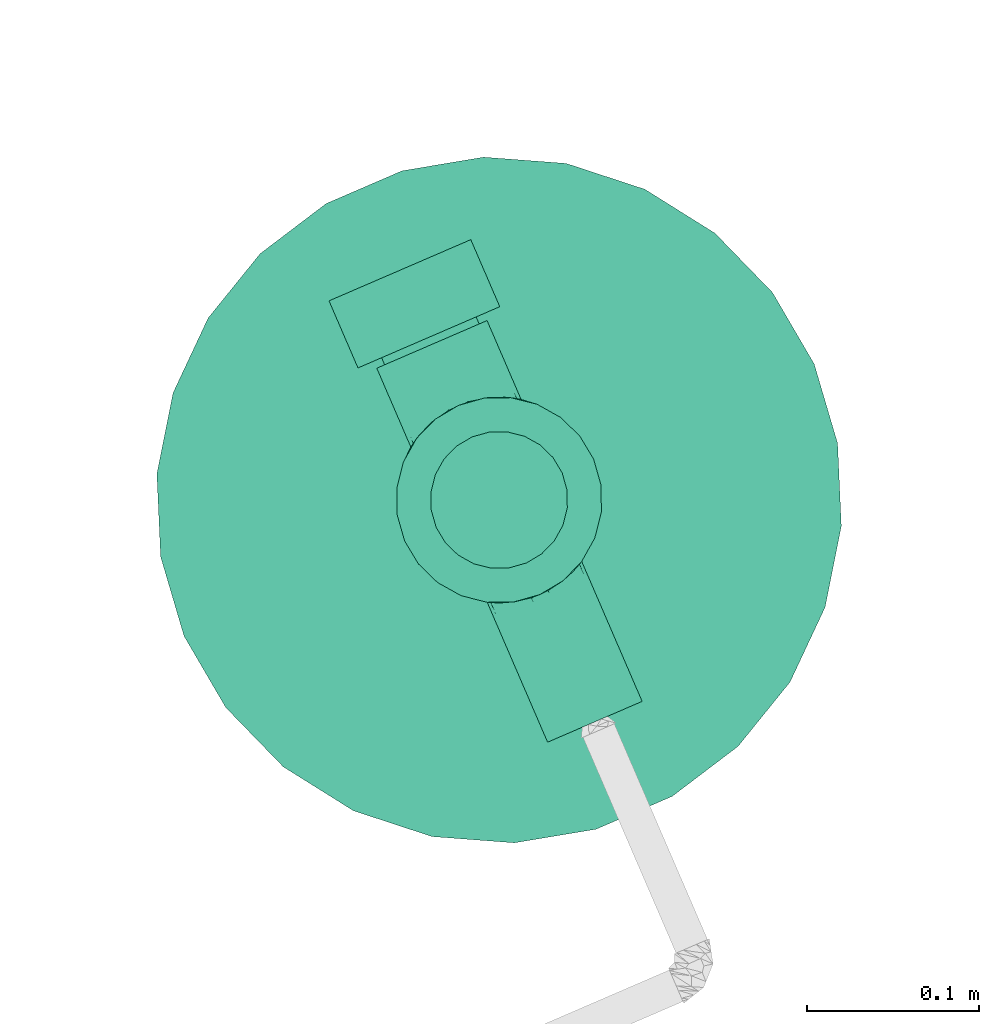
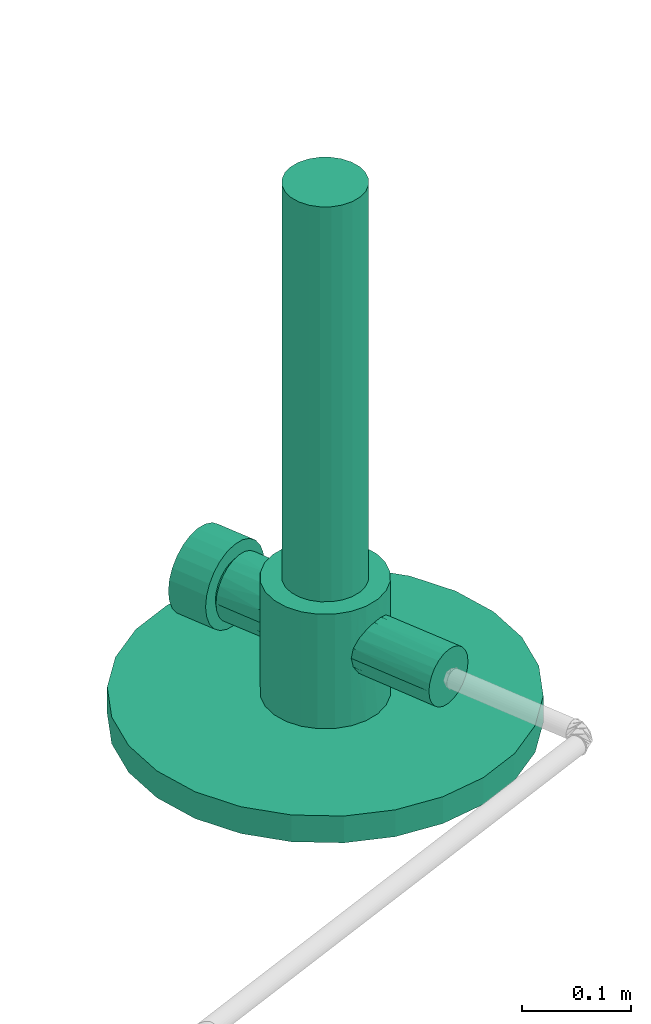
# One storey, part 12 of 26: 1 burner.
"""IFC4 building model written with IfcOpenShell, lengths in metres."""

from ifc_helpers import new_model, entity, si_unit, converted_unit, derived_unit, direction, frame, origin, place, context, subcontext, project, spatial, polygons, source, transform, mapped, material, type_object, type_shapes, element, save


model = new_model("IFC4")

# Units and contexts
model_context = context("Model", 3, precision=1e-05, world=origin(), true_north=direction((6.12323399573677e-17, 1.0)))
body_context = subcontext(model_context, "Body", "Model", "MODEL_VIEW")
ifc_project = project(units=[si_unit("LENGTHUNIT", "METRE"), si_unit("AREAUNIT", "SQUARE_METRE"), si_unit("VOLUMEUNIT", "CUBIC_METRE"), si_unit("PRESSUREUNIT", "PASCAL"), derived_unit("VOLUMETRICFLOWRATEUNIT", [(si_unit("LENGTHUNIT", "METRE", prefix="DECI"), 3), (si_unit("TIMEUNIT", "SECOND"), -1)]), converted_unit("PLANEANGLEUNIT", "DEGREE", entity("IfcPlaneAngleMeasure", 0.0174532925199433), si_unit("PLANEANGLEUNIT", "RADIAN"), dimensions=[0, 0, 0, 0, 0, 0, 0])], contexts=[model_context])

# Site, building, storey
site_placement = place(None, origin())
site = spatial("IfcSite", under=ifc_project, at=site_placement, Name="Default", CompositionType="ELEMENT")
building_placement = place(site_placement, frame((24.575451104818, -55.896759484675, 317.15), z_axis=(0.0, 0.0, 1.0), x_axis=(-0.396377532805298, 0.918087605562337, 0.0)))
building = spatial("IfcBuilding", under=site, at=building_placement, CompositionType="ELEMENT")
storey_placement = place(building_placement, origin())
storey = spatial("IfcBuildingStorey", under=building, at=storey_placement, Name="Nivel 1", CompositionType="ELEMENT", Elevation=0.0)

# Burner
ifc_material = material(Name="<Unnamed>")
burner_type = type_object("IfcBurnerType", Name="Mechero:Mechero", PredefinedType="NOTDEFINED", material=ifc_material)
shared_shape = source(origin(), body_context, "Body", "Tessellation", [
    polygons([(0.03, 0.140777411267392, 0.105540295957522), (0.0289777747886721, 0.140777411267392, 0.113304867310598), (0.0259807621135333, 0.140777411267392, 0.120540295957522), (0.0212132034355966, 0.140777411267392, 0.126753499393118), (0.0150000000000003, 0.140777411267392, 0.131521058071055), (0.00776457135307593, 0.140777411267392, 0.134518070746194), (3.24733641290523e-16, 0.140777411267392, 0.135540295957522), (-0.0077645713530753, 0.140777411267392, 0.134518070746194), (-0.0149999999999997, 0.140777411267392, 0.131521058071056), (-0.0212132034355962, 0.140777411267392, 0.126753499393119), (-0.025980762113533, 0.140777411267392, 0.120540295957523), (-0.0289777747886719, 0.140777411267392, 0.113304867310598), (-0.03, 0.140777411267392, 0.105540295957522), (-0.03, 0.0519615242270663, 0.105540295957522), (-0.0281488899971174, 0.0529871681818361, 0.115915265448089), (-0.0229729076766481, 0.0554278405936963, 0.124833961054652), (-0.0151160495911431, 0.058064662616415, 0.131453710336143), (-0.00529779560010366, 0.05976565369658, 0.135068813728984), (0.0052891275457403, 0.0597664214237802, 0.135070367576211), (0.015112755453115, 0.0580655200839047, 0.131455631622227), (0.0229650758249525, 0.0554310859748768, 0.124843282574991), (0.0281481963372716, 0.0529875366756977, 0.115917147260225), (0.03, 0.0519615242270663, 0.105540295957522), (0.0290740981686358, 0.052474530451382, 0.110728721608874), (0.0102009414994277, 0.0589159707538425, 0.133262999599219), (-0.0102069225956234, 0.0589151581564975, 0.133261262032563), (-4.33402718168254e-06, 0.0597660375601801, 0.135069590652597), (-0.0290744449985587, 0.0524743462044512, 0.110727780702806), (-0.028977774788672, 0.140777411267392, 0.0977757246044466), (-0.0259807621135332, 0.140777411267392, 0.0905402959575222), (-0.0212132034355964, 0.140777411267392, 0.0843270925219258), (-0.015, 0.140777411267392, 0.0795595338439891), (-0.00776457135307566, 0.140777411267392, 0.0765625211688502), (-4.89878376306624e-17, 0.140777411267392, 0.0755402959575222), (0.00776457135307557, 0.140777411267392, 0.0765625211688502), (0.0149999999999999, 0.140777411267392, 0.079559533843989), (0.0212132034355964, 0.140777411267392, 0.0843270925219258), (0.0259807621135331, 0.140777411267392, 0.0905402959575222), (0.028977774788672, 0.140777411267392, 0.0977757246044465), (0.0281481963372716, 0.0529875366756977, 0.0951634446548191), (0.0229650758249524, 0.0554310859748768, 0.0862373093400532), (0.0151127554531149, 0.0580655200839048, 0.079624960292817), (0.00528912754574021, 0.0597664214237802, 0.0760102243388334), (-0.00529779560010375, 0.05976565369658, 0.0760117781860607), (-0.0151160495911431, 0.058064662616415, 0.0796268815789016), (-0.0229729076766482, 0.0554278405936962, 0.0862466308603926), (-0.0281488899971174, 0.0529871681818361, 0.0951653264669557), (-0.0290744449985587, 0.0524743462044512, 0.100352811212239), (-0.0102069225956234, 0.0589151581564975, 0.0778193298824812), (0.0102009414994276, 0.0589159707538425, 0.0778175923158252), (-4.33402718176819e-06, 0.0597660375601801, 0.076011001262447), (0.0290740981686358, 0.052474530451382, 0.100351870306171), (-0.06, 1.938147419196e-16, 0.158062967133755), (-0.0579555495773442, -0.015529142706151, 0.158062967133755), (-0.0519615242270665, -0.0299999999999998, 0.158062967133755), (-0.042426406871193, -0.0424264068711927, 0.158062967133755), (-0.0300000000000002, -0.0519615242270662, 0.158062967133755), (-0.0155291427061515, -0.057955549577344, 0.158062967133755), (-2.79176681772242e-16, -0.06, 0.158062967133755), (0.015529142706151, -0.0579555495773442, 0.158062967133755), (0.0299999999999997, -0.0519615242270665, 0.158062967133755), (0.0424264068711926, -0.0424264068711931, 0.158062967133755), (0.0519615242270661, -0.0300000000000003, 0.158062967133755), (0.057955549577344, -0.0155291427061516, 0.158062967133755), (0.06, -5.06070118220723e-20, 0.158062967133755), (0.0579555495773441, 0.0155291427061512, 0.158062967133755), (0.0519615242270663, 0.03, 0.158062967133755), (0.0424264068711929, 0.0424264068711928, 0.158062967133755), (0.0300000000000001, 0.0519615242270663, 0.158062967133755), (0.0155291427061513, 0.0579555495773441, 0.158062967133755), (8.45989944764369e-17, 0.06, 0.158062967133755), (-0.0155291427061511, 0.0579555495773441, 0.158062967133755), (-0.0299999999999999, 0.0519615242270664, 0.158062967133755), (-0.0424264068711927, 0.042426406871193, 0.158062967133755), (-0.0519615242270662, 0.0300000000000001, 0.158062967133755), (-0.057955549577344, 0.0155291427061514, 0.158062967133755), (0.04, -2.58487131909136e-16, 0.158062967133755), (0.0386370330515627, -0.0103527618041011, 0.158062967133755), (0.0346410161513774, -0.0200000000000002, 0.158062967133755), (0.0282842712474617, -0.0282842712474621, 0.158062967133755), (0.0199999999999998, -0.0346410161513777, 0.158062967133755), (0.0103527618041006, -0.0386370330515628, 0.158062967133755), (-1.86117787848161e-16, -0.04, 0.158062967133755), (-0.010352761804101, -0.0386370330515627, 0.158062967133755), (-0.0200000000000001, -0.0346410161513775, 0.158062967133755), (-0.028284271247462, -0.0282842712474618, 0.158062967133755), (-0.0346410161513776, -0.0199999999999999, 0.158062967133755), (-0.0386370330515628, -0.0103527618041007, 0.158062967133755), (-0.04, -1.47007134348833e-16, 0.158062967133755), (-0.0386370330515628, 0.0103527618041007, 0.158062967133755), (-0.0346410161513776, 0.0199999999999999, 0.158062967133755), (-0.028284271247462, 0.0282842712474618, 0.158062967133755), (-0.0200000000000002, 0.0346410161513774, 0.158062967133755), (-0.010352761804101, 0.0386370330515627, 0.158062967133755), (-2.19957385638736e-16, 0.04, 0.158062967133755), (0.0103527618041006, 0.0386370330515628, 0.158062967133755), (0.0199999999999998, 0.0346410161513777, 0.158062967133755), (0.0282842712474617, 0.0282842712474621, 0.158062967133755), (0.0346410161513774, 0.0200000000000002, 0.158062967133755), (0.0386370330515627, 0.0103527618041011, 0.158062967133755), (-0.06, 1.67169389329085e-16, 0.03), (-0.057955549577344, 0.0155291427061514, 0.03), (-0.0519615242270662, 0.0300000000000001, 0.03), (-0.0424264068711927, 0.042426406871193, 0.03), (-0.0299999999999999, 0.0519615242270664, 0.03), (-0.0155291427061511, 0.0579555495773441, 0.03), (8.45989944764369e-17, 0.06, 0.03), (0.0155291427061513, 0.0579555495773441, 0.03), (0.0300000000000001, 0.0519615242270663, 0.03), (0.0424264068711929, 0.0424264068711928, 0.03), (0.0519615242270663, 0.03, 0.03), (0.0579555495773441, 0.0155291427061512, 0.03), (0.06, -3.34490599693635e-16, 0.03), (0.057955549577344, -0.0155291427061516, 0.03), (0.0519615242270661, -0.0300000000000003, 0.03), (0.0424264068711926, -0.0424264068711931, 0.03), (0.0299999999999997, -0.0519615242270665, 0.03), (0.015529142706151, -0.0579555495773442, 0.03), (-2.79176681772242e-16, -0.06, 0.03), (-0.0155291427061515, -0.057955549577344, 0.03), (-0.0300000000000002, -0.0519615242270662, 0.03), (-0.042426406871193, -0.0424264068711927, 0.03), (-0.0519615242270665, -0.0299999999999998, 0.03), (-0.0579555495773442, -0.015529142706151, 0.03), (-0.0350000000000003, -0.0487339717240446, 0.106389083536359), (-0.0328211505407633, -0.0502272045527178, 0.118545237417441), (-0.0268063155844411, -0.0536788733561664, 0.128892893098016), (-0.0176988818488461, -0.0573301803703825, 0.136584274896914), (-0.00622472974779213, -0.0596762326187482, 0.140831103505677), (0.00621395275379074, -0.0596773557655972, 0.140833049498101), (0.0176944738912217, -0.0573315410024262, 0.136586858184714), (0.0267976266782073, -0.0536832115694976, 0.12890323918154), (0.0328202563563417, -0.0502277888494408, 0.118547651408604), (0.0349999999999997, -0.0487339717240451, 0.106389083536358), (0.0328202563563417, -0.0502277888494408, 0.0942305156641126), (0.0267976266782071, -0.0536832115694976, 0.0838749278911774), (0.0176944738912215, -0.0573315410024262, 0.0761913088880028), (0.00621395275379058, -0.0596773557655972, 0.0719451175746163), (-0.00622472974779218, -0.0596762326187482, 0.0719470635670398), (-0.0176988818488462, -0.0573301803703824, 0.0761938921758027), (-0.0268063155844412, -0.0536788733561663, 0.0838852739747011), (-0.0328211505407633, -0.0502272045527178, 0.0942329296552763), (0.022764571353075, -0.0549585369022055, 0.158062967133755), (0.00776457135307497, -0.0589777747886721, 0.158062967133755), (-0.00776457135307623, -0.058977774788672, 0.158062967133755), (-0.0227645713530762, -0.054958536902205, 0.158062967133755), (-0.00776457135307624, -0.058977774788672, 0.03), (0.00776457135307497, -0.0589777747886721, 0.03), (-0.0119618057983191, -0.0585032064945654, 0.138707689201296), (-5.38849700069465e-06, -0.0596767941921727, 0.140832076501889), (0.0119542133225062, -0.0585044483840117, 0.138709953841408), (0.0191468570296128, -0.0564570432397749, 0.158062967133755), (0.00388228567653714, -0.0594888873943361, 0.158062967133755), (-0.00388228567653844, -0.059488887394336, 0.158062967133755), (-0.019146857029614, -0.0564570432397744, 0.158062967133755), (0.00310428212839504, -0.059677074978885, 0.140832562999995), (-0.0222525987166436, -0.0555045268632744, 0.132738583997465), (-0.011646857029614, -0.058466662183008, 0.158062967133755), (-0.00311505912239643, -0.0596765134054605, 0.140831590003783), (0.0116468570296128, -0.0584666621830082, 0.158062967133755), (0.0222460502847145, -0.0555073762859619, 0.132745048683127), (-0.0227645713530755, 0.0549585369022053, 0.158062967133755), (-0.00776457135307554, 0.0589777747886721, 0.158062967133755), (0.00776457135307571, 0.058977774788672, 0.158062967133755), (0.0227645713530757, 0.0549585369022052, 0.158062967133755), (-0.04, 1.29243565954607e-16, 0.6), (-0.0386370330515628, -0.0103527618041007, 0.6), (-0.0346410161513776, -0.0199999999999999, 0.6), (-0.028284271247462, -0.0282842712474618, 0.6), (-0.0200000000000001, -0.0346410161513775, 0.6), (-0.010352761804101, -0.0386370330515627, 0.6), (-1.86117787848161e-16, -0.04, 0.6), (0.0103527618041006, -0.0386370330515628, 0.6), (0.0199999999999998, -0.0346410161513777, 0.6), (0.0282842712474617, -0.0282842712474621, 0.6), (0.0346410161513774, -0.0200000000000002, 0.6), (0.0386370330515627, -0.0103527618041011, 0.6), (0.04, 0.0, 0.6), (0.0386370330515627, 0.0103527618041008, 0.6), (0.0346410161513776, 0.02, 0.6), (0.0282842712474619, 0.0282842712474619, 0.6), (0.02, 0.0346410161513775, 0.6), (0.0103527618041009, 0.0386370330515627, 0.6), (5.92192961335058e-17, 0.04, 0.6), (-0.0103527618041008, 0.0386370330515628, 0.6), (-0.0199999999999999, 0.0346410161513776, 0.6), (-0.0282842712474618, 0.028284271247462, 0.6), (-0.0346410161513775, 0.0200000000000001, 0.6), (-0.0386370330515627, 0.0103527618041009, 0.6), (0.03, -0.0987791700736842, 0.105540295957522), (0.0289777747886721, -0.0987791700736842, 0.113304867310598), (0.0259807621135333, -0.0987791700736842, 0.120540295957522), (0.0212132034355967, -0.0987791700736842, 0.126753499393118), (0.0150000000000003, -0.0987791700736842, 0.131521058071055), (0.00776457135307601, -0.0987791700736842, 0.134518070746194), (4.04669699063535e-16, -0.0987791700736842, 0.135540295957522), (-0.0077645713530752, -0.0987791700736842, 0.134518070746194), (-0.0149999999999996, -0.0987791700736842, 0.131521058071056), (-0.0212132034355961, -0.0987791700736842, 0.126753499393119), (-0.0259807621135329, -0.0987791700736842, 0.120540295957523), (-0.0289777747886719, -0.0987791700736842, 0.113304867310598), (-0.03, -0.0987791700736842, 0.105540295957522), (-0.03, -0.103264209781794, 0.105540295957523), (-0.0289777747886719, -0.103264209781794, 0.113304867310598), (-0.0259807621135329, -0.103264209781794, 0.120540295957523), (-0.0212132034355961, -0.103264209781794, 0.126753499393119), (-0.0149999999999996, -0.103264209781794, 0.131521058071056), (-0.0077645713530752, -0.103264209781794, 0.134518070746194), (4.04669699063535e-16, -0.103264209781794, 0.135540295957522), (0.00776457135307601, -0.103264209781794, 0.134518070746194), (0.0150000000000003, -0.103264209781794, 0.131521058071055), (0.0212132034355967, -0.103264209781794, 0.126753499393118), (0.0259807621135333, -0.103264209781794, 0.120540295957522), (0.0289777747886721, -0.103264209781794, 0.113304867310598), (0.03, -0.103264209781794, 0.105540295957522), (-0.028977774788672, -0.0987791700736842, 0.0977757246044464), (-0.0259807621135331, -0.0987791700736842, 0.0905402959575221), (-0.0212132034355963, -0.0987791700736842, 0.0843270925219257), (-0.0149999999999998, -0.0987791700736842, 0.079559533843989), (-0.00776457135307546, -0.0987791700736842, 0.0765625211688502), (1.64174983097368e-16, -0.0987791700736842, 0.0755402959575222), (0.00776457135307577, -0.0987791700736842, 0.0765625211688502), (0.0150000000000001, -0.0987791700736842, 0.0795595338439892), (0.0212132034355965, -0.0987791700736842, 0.0843270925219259), (0.0259807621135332, -0.0987791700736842, 0.0905402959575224), (0.0289777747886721, -0.0987791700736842, 0.0977757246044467), (0.0289777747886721, -0.103264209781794, 0.0977757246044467), (0.0259807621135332, -0.103264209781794, 0.0905402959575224), (0.0212132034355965, -0.103264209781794, 0.0843270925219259), (0.0150000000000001, -0.103264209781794, 0.0795595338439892), (0.00776457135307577, -0.103264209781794, 0.0765625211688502), (1.64174983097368e-16, -0.103264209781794, 0.0755402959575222), (-0.00776457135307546, -0.103264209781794, 0.0765625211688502), (-0.0149999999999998, -0.103264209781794, 0.079559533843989), (-0.0212132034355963, -0.103264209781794, 0.0843270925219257), (-0.0259807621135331, -0.103264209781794, 0.0905402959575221), (-0.028977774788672, -0.103264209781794, 0.0977757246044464), (0.035, -0.0987791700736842, 0.106389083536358), (0.0338074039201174, -0.0987791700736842, 0.115447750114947), (0.0303108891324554, -0.0987791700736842, 0.123889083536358), (0.0247487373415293, -0.0987791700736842, 0.131137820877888), (0.0175000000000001, -0.0987791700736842, 0.136699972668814), (0.00905866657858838, -0.0987791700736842, 0.140196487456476), (1.6073808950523e-16, -0.0987791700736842, 0.141389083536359), (-0.00905866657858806, -0.0987791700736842, 0.140196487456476), (-0.0174999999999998, -0.0987791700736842, 0.136699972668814), (-0.024748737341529, -0.0987791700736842, 0.131137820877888), (-0.0303108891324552, -0.0987791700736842, 0.123889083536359), (-0.0338074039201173, -0.0987791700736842, 0.115447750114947), (-0.035, -0.0987791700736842, 0.106389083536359), (-0.0338074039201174, -0.0987791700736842, 0.0973304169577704), (-0.0303108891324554, -0.0987791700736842, 0.0888890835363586), (-0.0247487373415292, -0.0987791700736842, 0.0816403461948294), (-0.0175, -0.0987791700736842, 0.0760781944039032), (-0.00905866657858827, -0.0987791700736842, 0.0725816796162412), (-5.07593966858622e-17, -0.0987791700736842, 0.0713890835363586), (0.00905866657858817, -0.0987791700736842, 0.0725816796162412), (0.0174999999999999, -0.0987791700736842, 0.0760781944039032), (0.0247487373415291, -0.0987791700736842, 0.0816403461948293), (0.0303108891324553, -0.0987791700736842, 0.0888890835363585), (0.0338074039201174, -0.0987791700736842, 0.0973304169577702), (0.0339101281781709, -0.0494808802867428, 0.112468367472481), (-0.0339105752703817, -0.0494805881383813, 0.1124671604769), (-0.0339105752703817, -0.0494805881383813, 0.100311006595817), (-0.0119618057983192, -0.0585032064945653, 0.0740704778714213), (-5.38849700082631e-06, -0.0596767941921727, 0.0719460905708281), (0.0119542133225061, -0.0585044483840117, 0.0740682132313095), (0.0339101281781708, -0.0494808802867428, 0.100309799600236), (-0.045, -0.145831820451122, 0.106435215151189), (-0.0434666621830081, -0.145831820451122, 0.0947883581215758), (-0.0389711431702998, -0.145831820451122, 0.0839352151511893), (-0.0318198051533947, -0.145831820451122, 0.0746154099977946), (-0.0225000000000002, -0.145831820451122, 0.0674640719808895), (-0.0116468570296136, -0.145831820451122, 0.0629685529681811), (-2.11497486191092e-16, -0.145831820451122, 0.0614352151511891), (0.0116468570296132, -0.145831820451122, 0.062968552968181), (0.0224999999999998, -0.145831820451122, 0.0674640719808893), (0.0318198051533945, -0.145831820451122, 0.0746154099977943), (0.0389711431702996, -0.145831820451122, 0.0839352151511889), (0.043466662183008, -0.145831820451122, 0.0947883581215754), (0.045, -0.145831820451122, 0.106435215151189), (0.0434666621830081, -0.145831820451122, 0.118082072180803), (0.0389711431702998, -0.145831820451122, 0.128935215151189), (0.0318198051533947, -0.145831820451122, 0.138255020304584), (0.0225, -0.145831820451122, 0.145406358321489), (0.0116468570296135, -0.145831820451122, 0.149901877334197), (5.92192961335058e-17, -0.145831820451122, 0.151435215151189), (-0.0116468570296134, -0.145831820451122, 0.149901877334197), (-0.0224999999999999, -0.145831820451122, 0.145406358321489), (-0.0318198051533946, -0.145831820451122, 0.138255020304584), (-0.0389711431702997, -0.145831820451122, 0.128935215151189), (-0.043466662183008, -0.145831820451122, 0.118082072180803), (-0.045, -0.103264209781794, 0.106435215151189), (-0.043466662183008, -0.103264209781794, 0.118082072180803), (-0.0389711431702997, -0.103264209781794, 0.128935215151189), (-0.0318198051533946, -0.103264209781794, 0.138255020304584), (-0.0224999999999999, -0.103264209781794, 0.145406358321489), (-0.0116468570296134, -0.103264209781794, 0.149901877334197), (5.92192961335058e-17, -0.103264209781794, 0.151435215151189), (0.0116468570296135, -0.103264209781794, 0.149901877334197), (0.0225, -0.103264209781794, 0.145406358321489), (0.0318198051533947, -0.103264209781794, 0.138255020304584), (0.0389711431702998, -0.103264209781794, 0.128935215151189), (0.0434666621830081, -0.103264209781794, 0.118082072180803), (0.045, -0.103264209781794, 0.106435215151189), (0.043466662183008, -0.103264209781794, 0.0947883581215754), (0.0389711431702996, -0.103264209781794, 0.0839352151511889), (0.0318198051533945, -0.103264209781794, 0.0746154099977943), (0.0224999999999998, -0.103264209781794, 0.0674640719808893), (0.0116468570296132, -0.103264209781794, 0.062968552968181), (-2.11497486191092e-16, -0.103264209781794, 0.0614352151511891), (-0.0116468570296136, -0.103264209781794, 0.0629685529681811), (-0.0225000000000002, -0.103264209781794, 0.0674640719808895), (-0.0318198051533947, -0.103264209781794, 0.0746154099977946), (-0.0389711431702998, -0.103264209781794, 0.0839352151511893), (-0.0434666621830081, -0.103264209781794, 0.0947883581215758)], [[[22, 2, 3]], [[20, 4, 5]], [[3, 4, 21]], [[6, 25, 5]], [[6, 19, 25]], [[2, 22, 24]], [[26, 9, 17]], [[22, 3, 21]], [[21, 4, 20]], [[13, 28, 12]], [[20, 5, 25]], [[24, 1, 2]], [[7, 18, 27, 19]], [[7, 19, 6]], [[10, 17, 9]], [[15, 11, 12]], [[10, 11, 16]], [[13, 14, 28]], [[18, 7, 8]], [[9, 26, 8]], [[26, 18, 8]], [[16, 17, 10]], [[11, 15, 16]], [[28, 15, 12]], [[24, 23, 1]], [[33, 44, 49]], [[45, 31, 32]], [[1, 52, 39]], [[33, 49, 32]], [[50, 36, 42]], [[29, 47, 48]], [[47, 29, 30]], [[47, 30, 46]], [[46, 30, 31]], [[46, 31, 45]], [[45, 32, 49]], [[48, 14, 13]], [[34, 43, 51, 44]], [[34, 44, 33]], [[37, 42, 36]], [[40, 38, 39]], [[37, 38, 41]], [[1, 23, 52]], [[43, 34, 35]], [[36, 50, 35]], [[50, 43, 35]], [[41, 42, 37]], [[38, 40, 41]], [[52, 40, 39]], [[48, 13, 29]], [[61, 62, 63, 64, 65, 66, 67, 68, 69, 165, 70, 164, 71, 163, 72, 162, 73, 74, 75, 76, 53, 54, 55, 56, 57, 146, 155, 58, 158, 145, 154, 59, 153, 144, 160, 60, 152, 143], [81, 82, 83, 84, 85, 86, 87, 88, 89, 90, 91, 92, 93, 94, 95, 96, 97, 98, 99, 100, 77, 78, 79, 80]], [[173, 174, 175, 176, 177, 178, 179, 180, 181, 182, 183, 184, 185, 186, 187, 188, 189, 166, 167, 168, 169, 170, 171, 172]], [[112, 113, 114, 115, 116, 117, 118, 148, 119, 147, 120, 121, 122, 123, 124, 101, 102, 103, 104, 105, 106, 107, 108, 109, 110, 111]], [[55, 123, 122, 56]], [[87, 86, 169, 168]], [[53, 101, 124, 54]], [[89, 88, 167, 166]], [[123, 55, 54, 124]], [[88, 87, 168, 167]], [[122, 142, 264, 125]], [[122, 121, 142]], [[140, 121, 120]], [[139, 120, 147, 119]], [[128, 58, 155]], [[140, 141, 121]], [[120, 139, 265, 140]], [[146, 127, 157]], [[144, 151, 60, 160]], [[121, 141, 142]], [[130, 144, 153]], [[125, 56, 122]], [[152, 161, 143]], [[56, 125, 263, 126]], [[149, 145, 158, 58]], [[59, 156, 153]], [[155, 157, 128]], [[126, 127, 57]], [[146, 57, 127]], [[149, 129, 145]], [[59, 159, 150, 156]], [[126, 57, 56]], [[161, 152, 131]], [[119, 138, 266, 139]], [[154, 129, 159]], [[118, 117, 137]], [[58, 128, 149]], [[118, 137, 267, 138]], [[136, 137, 117]], [[117, 135, 136]], [[118, 138, 119, 148]], [[115, 63, 62, 116]], [[80, 79, 176, 175]], [[114, 64, 63, 115]], [[79, 78, 177, 176]], [[116, 134, 268, 135]], [[116, 135, 117]], [[62, 134, 116]], [[129, 154, 145]], [[114, 113, 65, 64]], [[78, 77, 178, 177]], [[132, 143, 161]], [[60, 131, 152]], [[155, 146, 157]], [[156, 130, 153]], [[60, 151, 131]], [[132, 61, 143]], [[61, 133, 62]], [[133, 61, 132]], [[62, 133, 262, 134]], [[151, 144, 130]], [[159, 59, 154]], [[110, 68, 67, 111]], [[99, 98, 181, 180]], [[66, 65, 113, 112]], [[178, 77, 100, 179]], [[23, 69, 68, 110, 109]], [[98, 97, 182, 181]], [[111, 67, 66, 112]], [[179, 100, 99, 180]], [[108, 107, 43]], [[108, 43, 50, 42]], [[40, 109, 41]], [[42, 41, 108]], [[41, 109, 108]], [[109, 40, 52, 23]], [[69, 23, 24, 22]], [[20, 70, 165]], [[21, 165, 22]], [[165, 69, 22]], [[25, 19, 164]], [[25, 70, 20]], [[107, 44, 51, 43]], [[106, 45, 49, 44]], [[106, 44, 107]], [[71, 19, 27, 18]], [[46, 45, 106]], [[105, 47, 46]], [[70, 25, 164]], [[46, 106, 105]], [[19, 71, 164]], [[103, 75, 74, 104]], [[92, 91, 188, 187]], [[102, 76, 75, 103]], [[91, 90, 189, 188]], [[105, 104, 74, 73, 14]], [[93, 92, 187, 186]], [[105, 14, 48, 47]], [[73, 15, 28, 14]], [[102, 101, 53, 76]], [[90, 89, 166, 189]], [[15, 162, 16]], [[16, 162, 17]], [[20, 165, 21]], [[71, 18, 163]], [[26, 72, 163]], [[162, 72, 17]], [[163, 18, 26]], [[73, 162, 15]], [[72, 26, 17]], [[85, 84, 171, 170]], [[86, 85, 170, 169]], [[83, 172, 171, 84]], [[81, 80, 175, 174]], [[82, 81, 174, 173]], [[82, 173, 172, 83]], [[97, 96, 183, 182]], [[95, 184, 183, 96]], [[94, 93, 186, 185]], [[94, 185, 184, 95]], [[33, 32, 31, 30, 29, 13, 12, 11, 10, 9, 8, 7, 6, 5, 4, 3, 2, 1, 39, 38, 37, 36, 35, 34]], [[301, 302, 303, 304, 305, 306, 307, 308, 309, 310, 311, 312, 313, 314, 315, 316, 293, 294, 295, 296, 297, 298, 299, 300], [211, 210, 209, 208, 207, 206, 205, 204, 203, 237, 236, 235, 234, 233, 232, 231, 230, 229, 228, 227, 215, 214, 213, 212]], [[213, 214, 191, 192]], [[303, 283, 282, 304]], [[214, 215, 190, 191]], [[304, 282, 281, 305]], [[211, 212, 193, 194]], [[285, 284, 302, 301]], [[192, 193, 212, 213]], [[303, 302, 284, 283]], [[210, 211, 194, 195]], [[286, 285, 301, 300]], [[209, 210, 195, 196]], [[286, 300, 299, 287]], [[198, 207, 208, 197]], [[288, 298, 297, 289]], [[199, 206, 207, 198]], [[296, 290, 289, 297]], [[204, 205, 200, 201]], [[291, 295, 294, 292]], [[199, 200, 205, 206]], [[296, 295, 291, 290]], [[203, 204, 201, 202]], [[292, 294, 293, 269]], [[197, 208, 209, 196]], [[288, 287, 299, 298]], [[216, 237, 203, 202]], [[316, 270, 269, 293]], [[217, 236, 237, 216]], [[315, 271, 270, 316]], [[234, 235, 218, 219]], [[314, 313, 273, 272]], [[217, 218, 235, 236]], [[315, 314, 272, 271]], [[233, 234, 219, 220]], [[274, 273, 313, 312]], [[232, 233, 220, 221]], [[275, 274, 312, 311]], [[223, 230, 231, 222]], [[276, 310, 309, 277]], [[224, 229, 230, 223]], [[308, 278, 277, 309]], [[227, 228, 225, 226]], [[279, 307, 306, 280]], [[224, 225, 228, 229]], [[308, 307, 279, 278]], [[215, 227, 226, 190]], [[280, 306, 305, 281]], [[222, 231, 232, 221]], [[310, 276, 275, 311]], [[246, 247, 248, 249, 250, 251, 252, 253, 254, 255, 256, 257, 258, 259, 260, 261, 238, 239, 240, 241, 242, 243, 244, 245], [198, 197, 196, 195, 194, 193, 192, 191, 190, 226, 225, 224, 223, 222, 221, 220, 219, 218, 217, 216, 202, 201, 200, 199]], [[276, 277, 278, 279, 280, 281, 282, 283, 284, 285, 286, 287, 288, 289, 290, 291, 292, 269, 270, 271, 272, 273, 274, 275]], [[238, 262, 239]], [[262, 238, 134]], [[151, 130, 243]], [[242, 151, 243]], [[240, 133, 132]], [[241, 132, 161, 131]], [[249, 126, 263]], [[151, 242, 131]], [[240, 239, 133]], [[131, 242, 241]], [[241, 240, 132]], [[244, 130, 156, 150, 159, 129]], [[244, 129, 245]], [[243, 130, 244]], [[262, 133, 239]], [[149, 128, 246]], [[248, 127, 126]], [[245, 129, 149]], [[247, 128, 157, 127]], [[125, 250, 263]], [[245, 149, 246]], [[128, 247, 246]], [[248, 247, 127]], [[126, 249, 248]], [[249, 263, 250]], [[250, 264, 251]], [[254, 265, 255]], [[252, 142, 141]], [[253, 141, 140]], [[142, 252, 251]], [[265, 254, 140]], [[264, 250, 125]], [[141, 253, 252]], [[139, 256, 255]], [[265, 139, 255]], [[140, 254, 253]], [[264, 142, 251]], [[257, 138, 267]], [[256, 139, 266, 138]], [[256, 138, 257]], [[261, 135, 268]], [[267, 137, 258]], [[260, 136, 135]], [[137, 136, 259]], [[134, 238, 268]], [[257, 267, 258]], [[137, 259, 258]], [[260, 259, 136]], [[135, 261, 260]], [[261, 268, 238]]], closed=True),
    polygons([(-0.2, 6.46256136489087e-16, 0.03), (-0.194188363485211, -0.0478631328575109, 0.03), (-0.177091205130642, -0.0929446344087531, 0.03), (-0.149702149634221, -0.132624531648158, 0.03), (-0.113612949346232, -0.164596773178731, 0.03), (-0.070920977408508, -0.187003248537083, 0.03), (-0.0241073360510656, -0.198541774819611, 0.03), (0.0241073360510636, -0.198541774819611, 0.03), (0.0709209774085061, -0.187003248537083, 0.03), (0.11361294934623, -0.164596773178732, 0.03), (0.149702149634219, -0.13262453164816, 0.03), (0.177091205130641, -0.0929446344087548, 0.03), (0.19418836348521, -0.0478631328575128, 0.03), (0.2, 3.83067160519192e-20, 0.03), (0.19418836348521, 0.0478631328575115, 0.03), (0.177091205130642, 0.0929446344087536, 0.03), (0.14970214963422, 0.132624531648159, 0.03), (0.113612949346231, 0.164596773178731, 0.03), (0.0709209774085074, 0.187003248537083, 0.03), (0.0241073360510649, 0.198541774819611, 0.03), (-0.0241073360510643, 0.198541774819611, 0.03), (-0.0709209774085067, 0.187003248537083, 0.03), (-0.113612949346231, 0.164596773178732, 0.03), (-0.14970214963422, 0.132624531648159, 0.03), (-0.177091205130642, 0.0929446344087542, 0.03), (-0.19418836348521, 0.0478631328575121, 0.03), (-0.2, 6.46256136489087e-16, 0.0), (-0.19418836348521, 0.0478631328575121, 0.0), (-0.177091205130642, 0.0929446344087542, 0.0), (-0.14970214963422, 0.132624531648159, 0.0), (-0.113612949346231, 0.164596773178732, 0.0), (-0.0709209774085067, 0.187003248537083, 0.0), (-0.0241073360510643, 0.198541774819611, 0.0), (0.0241073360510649, 0.198541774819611, 0.0), (0.0709209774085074, 0.187003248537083, 0.0), (0.113612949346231, 0.164596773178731, 0.0), (0.14970214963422, 0.132624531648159, 0.0), (0.177091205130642, 0.0929446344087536, 0.0), (0.19418836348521, 0.0478631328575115, 0.0), (0.2, -1.29239735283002e-15, 0.0), (0.19418836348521, -0.0478631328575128, 0.0), (0.177091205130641, -0.0929446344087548, 0.0), (0.149702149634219, -0.13262453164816, 0.0), (0.11361294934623, -0.164596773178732, 0.0), (0.0709209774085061, -0.187003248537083, 0.0), (0.0241073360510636, -0.198541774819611, 0.0), (-0.0241073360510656, -0.198541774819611, 0.0), (-0.070920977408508, -0.187003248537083, 0.0), (-0.113612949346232, -0.164596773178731, 0.0), (-0.149702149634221, -0.132624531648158, 0.0), (-0.177091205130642, -0.0929446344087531, 0.0), (-0.194188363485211, -0.0478631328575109, 0.0)], [[[9, 10, 11, 12, 13, 14, 15, 16, 17, 18, 19, 20, 21, 22, 23, 24, 25, 26, 1, 2, 3, 4, 5, 6, 7, 8]], [[34, 35, 36, 37, 38, 39, 40, 41, 42, 43, 44, 45, 46, 47, 48, 49, 50, 51, 52, 27, 28, 29, 30, 31, 32, 33]], [[52, 2, 1, 27]], [[51, 3, 2, 52]], [[5, 4, 50, 49]], [[49, 48, 6, 5]], [[51, 50, 4, 3]], [[47, 7, 6, 48]], [[47, 46, 8, 7]], [[45, 9, 8, 46]], [[44, 10, 9, 45]], [[13, 12, 42, 41]], [[41, 40, 14, 13]], [[44, 43, 11, 10]], [[43, 42, 12, 11]], [[39, 15, 14, 40]], [[38, 16, 15, 39]], [[18, 17, 37, 36]], [[36, 35, 19, 18]], [[38, 37, 17, 16]], [[34, 20, 19, 35]], [[34, 33, 21, 20]], [[23, 22, 32, 31]], [[33, 32, 22, 21]], [[29, 28, 26, 25]], [[24, 30, 29, 25]], [[23, 31, 30, 24]], [[26, 28, 27, 1]]], closed=True),
])
type_shapes(burner_type, [shared_shape])
burner_placement = place(storey_placement, frame((29.1915291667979, 40.9427340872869, 0.75), z_axis=(0.0, 0.0, 1.0), x_axis=(0.0, 1.0, 0.0)))
element("IfcBurner", 1, at=burner_placement, inside=storey, type_object=burner_type, material=ifc_material, Name="Mechero:Mechero", ObjectType="Mechero:Mechero", PredefinedType="NOTDEFINED", context=body_context, shape_type="MappedRepresentation", body=[
    mapped(shared_shape, transform((0.0, 0.0, 0.0), scale=1.0)),
])

save(model, "model.ifc")
